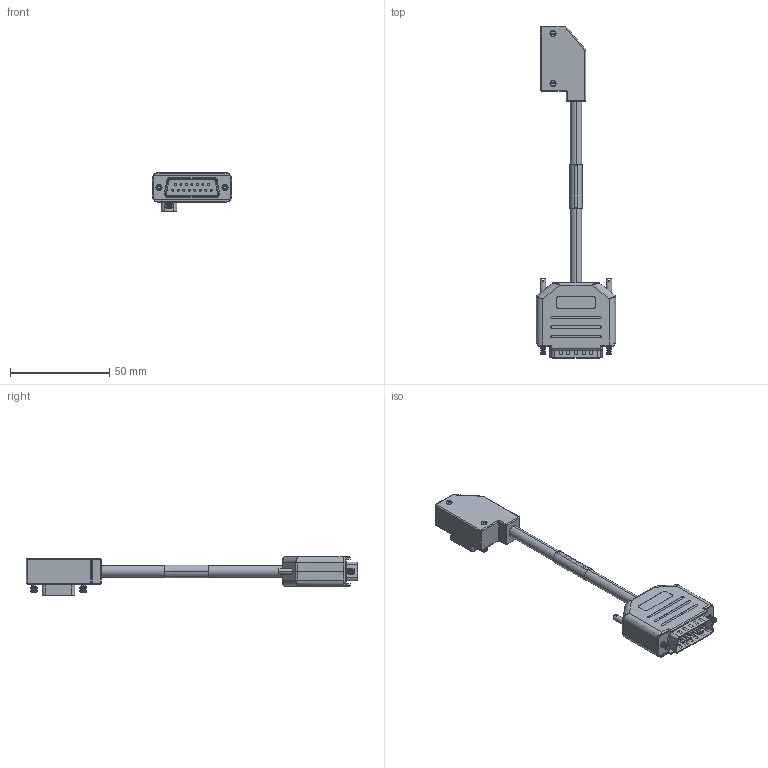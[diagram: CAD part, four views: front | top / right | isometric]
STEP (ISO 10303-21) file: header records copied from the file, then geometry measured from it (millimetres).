
FILE_DESCRIPTION (( 'STEP AP203' ), '1' );
FILE_NAME ('BX-To-G1_CABLE.STEP', '2023-11-13T14:16:18', ( '' ), ( '' ), 'SwSTEP 2.0', 'SolidWorks 2020', '' );
FILE_SCHEMA (( 'CONFIG_CONTROL_DESIGN' ));
Length unit declared in the file: inch
Products named in the file (1): BX-To-G1_CABLE
Bounding box: 40.01 x 167.64 x 19.62 mm (x, y, z)
Volume: 21631.9 mm3; surface area: 20760.1 mm2
Topology: 15 solids, 15 shells, 1008 faces, 2514 edges, 1575 vertices
Faces by surface type: plane 473, cylinder 398, bspline 67, cone 52, sphere 12, torus 6
Entity records: 34769 total; most frequent: CARTESIAN_POINT 10943, DIRECTION 4973, ORIENTED_EDGE 4924, EDGE_CURVE 2462, AXIS2_PLACEMENT_3D 1757, VERTEX_POINT 1575, LINE 1459, VECTOR 1459
